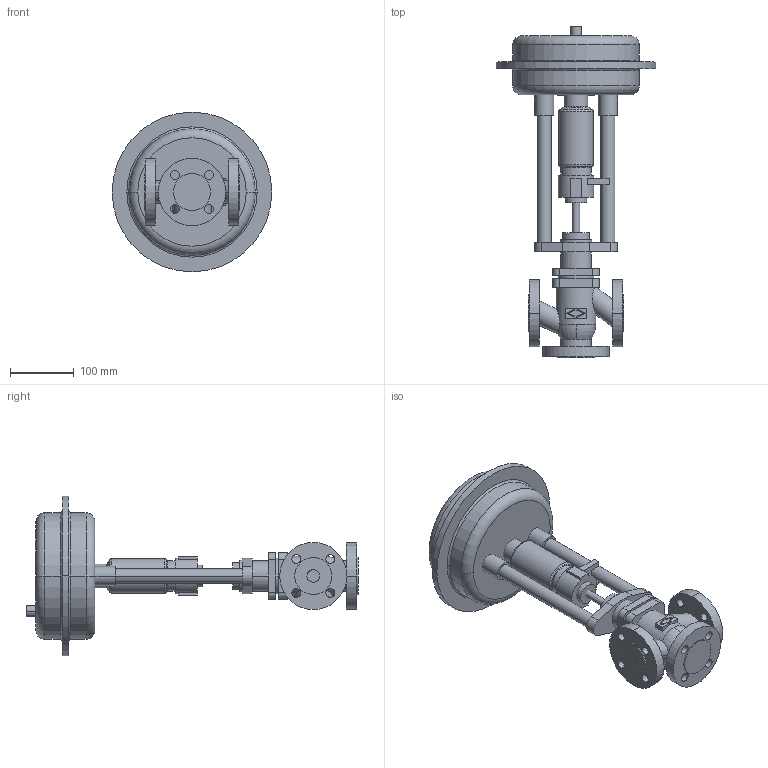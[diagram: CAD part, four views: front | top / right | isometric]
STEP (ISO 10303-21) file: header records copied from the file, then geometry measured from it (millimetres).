
FILE_DESCRIPTION(('OneSpaceDesigner STEP Export'),'2;1');
FILE_NAME('c000000651.stp','2006-09-13T12:58:07',(''),(''),'OneSpace Designer STEP processor for AP214 (Solid Model)','OneSpace Designer 13.20A 18-Aug-2005 (C) CoCreate Software GmbH','');
FILE_SCHEMA(('AUTOMOTIVE_DESIGN { 1 0 10303 214 1 1 1 1 }'));
Length unit declared in the file: millimetre
Products named in the file (2): 1; 2
Bounding box: 250 x 520 x 250 mm (x, y, z)
Volume: 4600731 mm3; surface area: 351096.6 mm2
Topology: 2 solids, 2 shells, 199 faces, 487 edges, 321 vertices
Faces by surface type: cylinder 100, plane 77, torus 18, cone 4
Entity records: 5601 total; most frequent: CARTESIAN_POINT 1268, ORIENTED_EDGE 974, DIRECTION 786, EDGE_CURVE 487, VERTEX_POINT 321, AXIS2_PLACEMENT_3D 286, EDGE_LOOP 252, VECTOR 214
